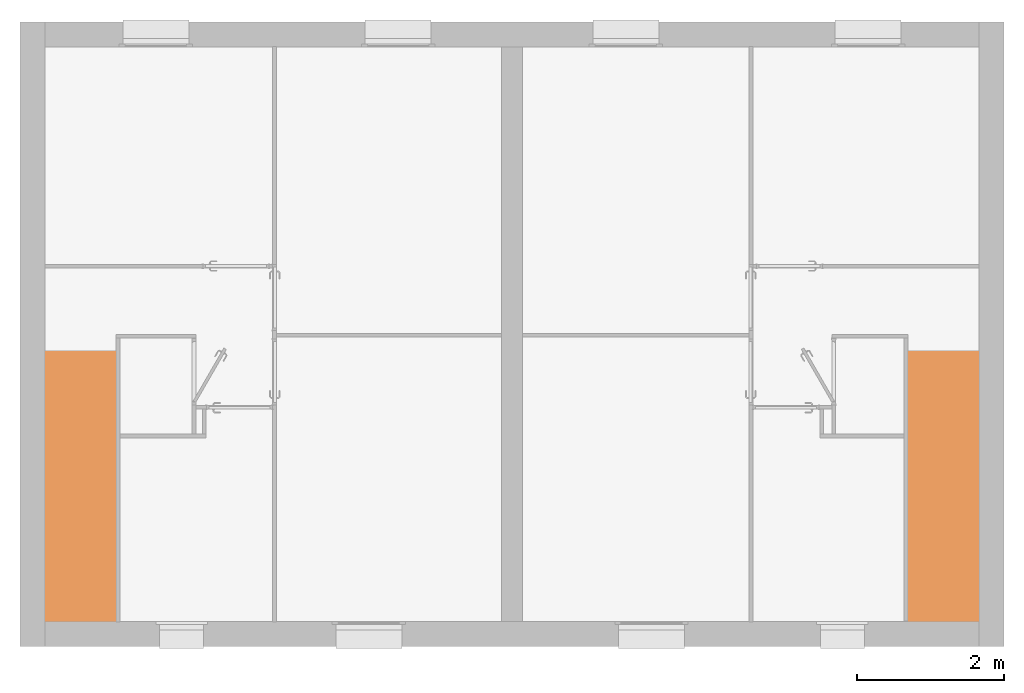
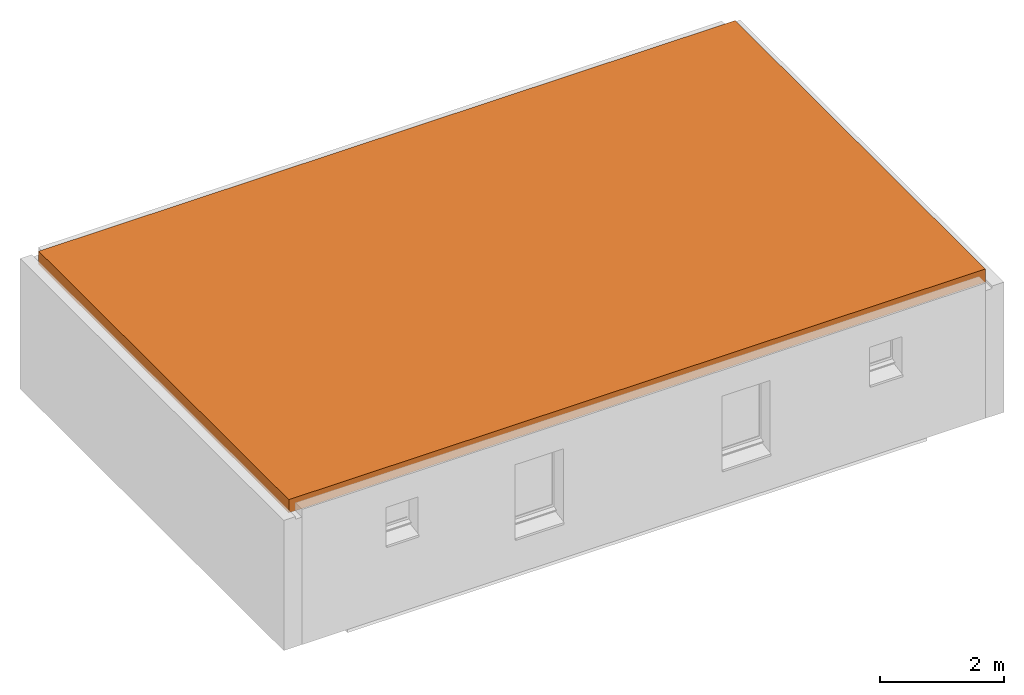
# One storey, part 14 of 14: 1 proxy.
"""IFC2X3 building model written with IfcOpenShell, lengths in millimetres."""

from ifc_helpers import new_model, entity, si_unit, converted_unit, direction, frame, origin, origin_with_axes, place, context, project, spatial, faceted_brep, element, save


model = new_model("IFC2X3")

# Units and contexts
model_context = context("Model", 3, precision=1e-05, world=origin(), true_north=direction((0.0, 1.0, 0.0)))
ifc_project = project(units=[si_unit("LENGTHUNIT", "METRE", prefix="MILLI"), si_unit("AREAUNIT", "SQUARE_METRE"), si_unit("VOLUMEUNIT", "CUBIC_METRE"), converted_unit("PLANEANGLEUNIT", "DEGREE", entity("IfcPlaneAngleMeasure", 0.01745), si_unit("PLANEANGLEUNIT", "RADIAN"), dimensions=[0, 0, 0, 0, 0, 0, 0]), si_unit("SOLIDANGLEUNIT", "STERADIAN"), si_unit("MASSUNIT", "GRAM"), si_unit("TIMEUNIT", "SECOND"), si_unit("THERMODYNAMICTEMPERATUREUNIT", "DEGREE_CELSIUS"), si_unit("LUMINOUSINTENSITYUNIT", "LUMEN")], contexts=[model_context])

# Site, building, storey
placement = place(None, origin_with_axes())
site_placement = place(placement, frame((11636.08881703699, 2815.7442167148, 4.768371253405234e-06), z_axis=(0.0, 0.0, 1.0), x_axis=(1.0, 0.0, 0.0)))
site = spatial("IfcSite", under=ifc_project, at=site_placement, Name="Surface", CompositionType="ELEMENT")
building_placement = place(placement, origin_with_axes())
building = spatial("IfcBuilding", under=site, at=building_placement, Name="Default Building", CompositionType="ELEMENT")
storey_placement = place(building_placement, origin_with_axes())
storey = spatial("IfcBuildingStorey", under=building, at=storey_placement, Name="Plan étage", CompositionType="ELEMENT", Elevation=0.0)

# Proxy
proxy_placement = place(storey_placement, frame((11636.08881703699, 2815.7442167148, 4.768371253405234e-06), z_axis=(0.0, 0.0, 1.0), x_axis=(1.0, 0.0, 0.0)))
element("IfcBuildingElementProxy", 1, at=proxy_placement, inside=storey, Name="IfcBuildingElementProxy - Plafond composé:Plafond avec isolation", context=model_context, shape_type="Brep", body=[
    faceted_brep([(1543.911200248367, 5464.25599309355, 5499.999995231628), (-11416.08883789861, -2595.744426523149, 5499.999995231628), (1543.911200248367, -2595.744426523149, 5499.999995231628), (-11416.08883789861, 5464.25599309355, 5499.999995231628), (1543.911200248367, -2595.744426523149, 5240.000004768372), (-11416.08883789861, 5464.25599309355, 5240.000004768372), (1543.911200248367, 5464.25599309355, 5240.000004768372), (-11416.08883789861, -2595.744426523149, 5240.000004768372)], [[[0, 1, 2]], [[0, 3, 1]], [[4, 5, 6]], [[4, 7, 5]], [[3, 6, 5]], [[3, 0, 6]], [[1, 5, 7]], [[1, 3, 5]], [[2, 7, 4]], [[2, 1, 7]], [[0, 4, 6]], [[0, 2, 4]]]),
])

save(model, "model.ifc")
